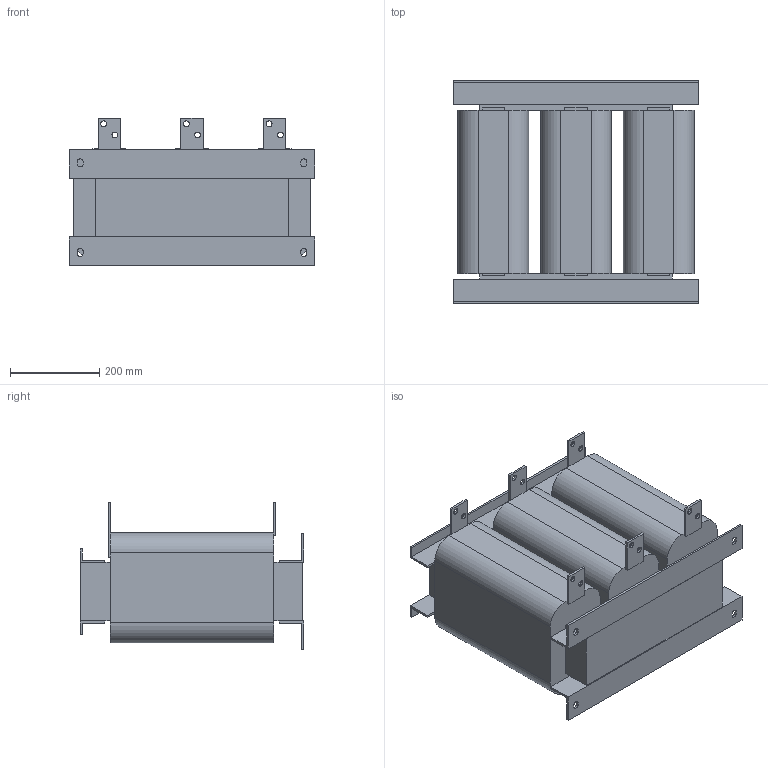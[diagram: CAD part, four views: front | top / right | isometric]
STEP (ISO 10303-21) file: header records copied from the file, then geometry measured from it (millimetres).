
FILE_DESCRIPTION(/* description */ (''),/* implementation_level */ '2;1');
FILE_NAME(/* name */ 'ACO-0690-T6-4.stp',/* time_stamp */ '2025-01-23T16:40:17+04:00',/* author */ ('Александр (огранич)'),/* organization */ (''),/* preprocessor_version */ 'ST-DEVELOPER v19.2',/* originating_system */ 'Autodesk Inventor 2024',/* authorisation */ '');
FILE_SCHEMA (('AUTOMOTIVE_DESIGN { 1 0 10303 214 3 1 1 }'));
Length unit declared in the file: millimetre
Products named in the file (1): ACO-0015-T4-4
Bounding box: 550 x 500 x 330 mm (x, y, z)
Volume: 49300440.4 mm3; surface area: 1517892.1 mm2
Topology: 1 solids, 1 shells, 142 faces, 396 edges, 252 vertices
Faces by surface type: plane 110, cylinder 32
Full cylindrical faces by diameter (mm): 13 x12
Entity records: 4591 total; most frequent: ORIENTED_EDGE 792, CARTESIAN_POINT 791, DIRECTION 746, EDGE_CURVE 396, LINE 332, VECTOR 332, VERTEX_POINT 252, AXIS2_PLACEMENT_3D 207
